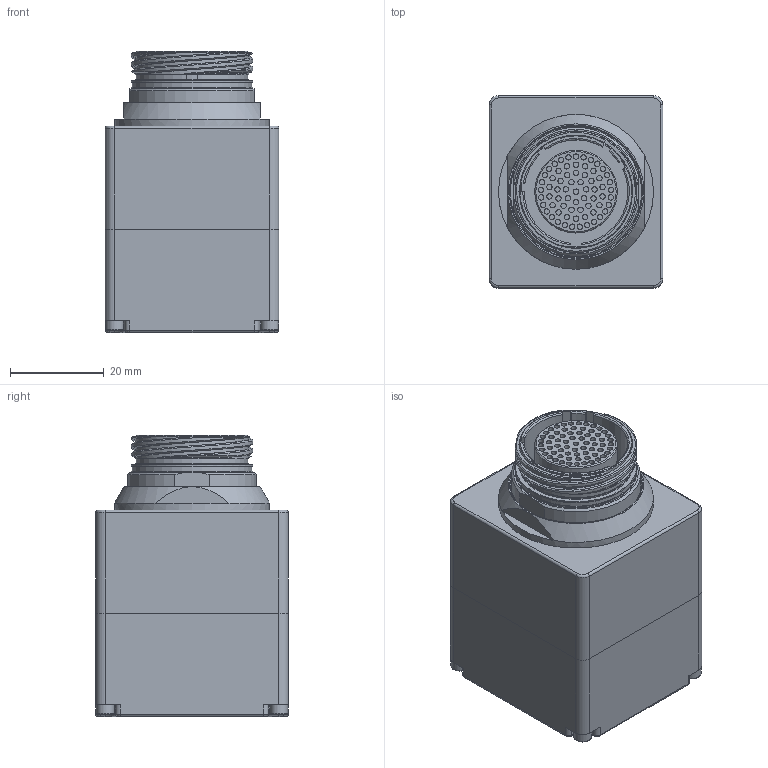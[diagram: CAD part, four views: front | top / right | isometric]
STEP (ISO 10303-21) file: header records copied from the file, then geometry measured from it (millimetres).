
FILE_DESCRIPTION(/* description */ (''),/* implementation_level */ '2;1');
FILE_NAME(/* name */ 'D:\Releases\CEX\CEX00\201010\CEX00-201010_website\CEX00_201010.stp',/* time_stamp */ '2021-11-17T17:54:23+01:00',/* author */ ('jbs3'),/* organization */ (''),/* preprocessor_version */ 'ST-DEVELOPER v17',/* originating_system */ 'Autodesk Inventor 2018',/* authorisation */ '');
FILE_SCHEMA (('AUTOMOTIVE_DESIGN { 1 0 10303 214 3 1 1 }'));
Length unit declared in the file: millimetre
Products named in the file (1): 00 Ensamblaje CEX00_Substitute_1
Bounding box: 37 x 41 x 59.9 mm (x, y, z)
Volume: 25388.1 mm3; surface area: 29090.5 mm2
Topology: 9 solids, 9 shells, 664 faces, 1464 edges, 983 vertices
Faces by surface type: plane 319, cylinder 274, cone 27, torus 24, bspline 20
Full cylindrical faces by diameter (mm): 0.7 x68, 0.92 x4, 1.15 x68, 1.567 x4, 2 x4, 2.2 x4, 2.459 x4, 3.8 x4, 17.6 x1, 23.8 x1, 24.1 x2, 25.5 x1, 25.9 x2, 28 x2, 30.4 x1, 31.8 x1, 33 x1
Entity records: 23016 total; most frequent: CARTESIAN_POINT 7050, DIRECTION 3365, ORIENTED_EDGE 2912, EDGE_CURVE 1456, AXIS2_PLACEMENT_3D 1353, VERTEX_POINT 983, EDGE_LOOP 851, CIRCLE 703
